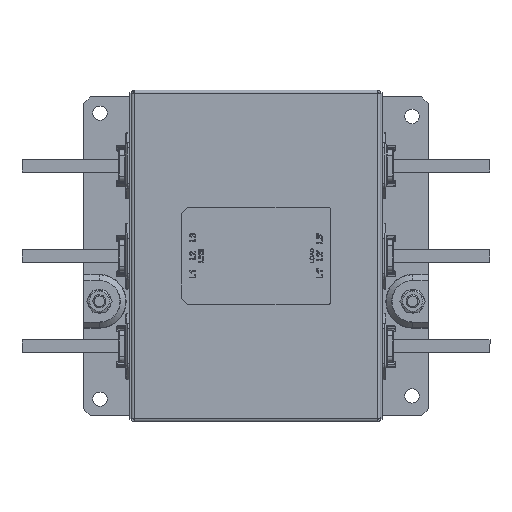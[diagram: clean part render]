
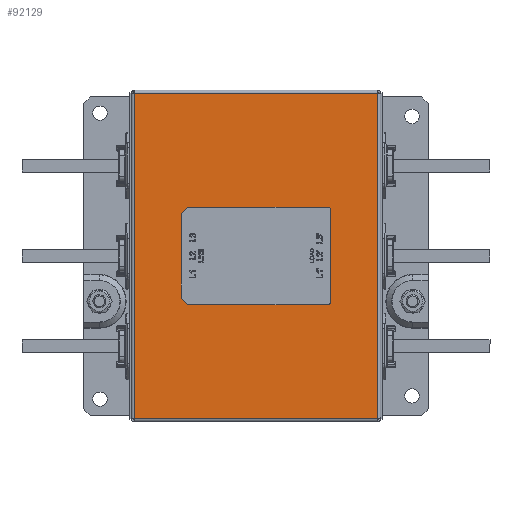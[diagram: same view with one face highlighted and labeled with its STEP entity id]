
A CAD part, top view. The second image highlights one B-rep face of the part: STEP entity #92129.
In plain terms, the highlighted planar face has unit normal (0, 0, 1).
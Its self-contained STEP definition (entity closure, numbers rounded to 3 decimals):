
#18790=CARTESIAN_POINT('',(57.5,35.5,150.));
#18791=VERTEX_POINT('',#18790);
#18798=CARTESIAN_POINT('',(55.5,37.5,150.));
#18799=VERTEX_POINT('',#18798);
#18800=CARTESIAN_POINT('',(55.5,35.5,150.));
#18801=DIRECTION('',(0.,0.,-1.0));
#18802=DIRECTION('',(0.707,0.707,0.));
#18803=AXIS2_PLACEMENT_3D('',#18800,#18801,#18802);
#18804=CIRCLE('',#18803,2.0);
#18805=EDGE_CURVE('',#18799,#18791,#18804,.T.);
#18823=CARTESIAN_POINT('',(57.5,-35.5,150.));
#18824=VERTEX_POINT('',#18823);
#18831=CARTESIAN_POINT('',(57.5,35.5,150.0));
#18832=DIRECTION('',(0.0,-1.0,0.0));
#18833=VECTOR('',#18832,71.0);
#18834=LINE('',#18831,#18833);
#18835=EDGE_CURVE('',#18791,#18824,#18834,.T.);
#18858=CARTESIAN_POINT('',(55.5,-37.5,150.));
#18859=VERTEX_POINT('',#18858);
#18866=CARTESIAN_POINT('',(55.5,-35.5,150.));
#18867=DIRECTION('',(0.,0.,-1.0));
#18868=DIRECTION('',(0.707,-0.707,0.));
#18869=AXIS2_PLACEMENT_3D('',#18866,#18867,#18868);
#18870=CIRCLE('',#18869,2.0);
#18871=EDGE_CURVE('',#18824,#18859,#18870,.T.);
#18884=CARTESIAN_POINT('',(-52.5,-37.5,150.));
#18885=VERTEX_POINT('',#18884);
#18892=CARTESIAN_POINT('',(55.5,-37.5,150.));
#18893=DIRECTION('',(-1.0,0.0,0.0));
#18894=VECTOR('',#18893,108.);
#18895=LINE('',#18892,#18894);
#18896=EDGE_CURVE('',#18859,#18885,#18895,.T.);
#18907=CARTESIAN_POINT('',(-52.5,37.5,150.));
#18908=VERTEX_POINT('',#18907);
#18915=CARTESIAN_POINT('',(-57.5,32.5,150.));
#18916=VERTEX_POINT('',#18915);
#18917=CARTESIAN_POINT('',(-57.5,32.5,150.));
#18918=DIRECTION('',(0.707,0.707,0.));
#18919=VECTOR('',#18918,7.071);
#18920=LINE('',#18917,#18919);
#18921=EDGE_CURVE('',#18916,#18908,#18920,.T.);
#18938=CARTESIAN_POINT('',(-52.5,37.5,150.));
#18939=DIRECTION('',(1.0,0.0,0.0));
#18940=VECTOR('',#18939,108.0);
#18941=LINE('',#18938,#18940);
#18942=EDGE_CURVE('',#18908,#18799,#18941,.T.);
#18955=CARTESIAN_POINT('',(-57.5,-32.5,150.));
#18956=VERTEX_POINT('',#18955);
#18963=CARTESIAN_POINT('',(-52.5,-37.5,150.));
#18964=DIRECTION('',(-0.707,0.707,0.0));
#18965=VECTOR('',#18964,7.071);
#18966=LINE('',#18963,#18965);
#18967=EDGE_CURVE('',#18885,#18956,#18966,.T.);
#18979=CARTESIAN_POINT('',(-57.5,-32.5,150.));
#18980=DIRECTION('',(0.0,1.0,0.0));
#18981=VECTOR('',#18980,65.0);
#18982=LINE('',#18979,#18981);
#18983=EDGE_CURVE('',#18956,#18916,#18982,.T.);
#92080=CARTESIAN_POINT('',(-93.695,-107.505,150.));
#92081=DIRECTION('',(0.0,0.0,1.0));
#92082=DIRECTION('',(0.0,1.0,0.0));
#92083=AXIS2_PLACEMENT_3D('',#92080,#92081,#92082);
#92084=PLANE('',#92083);
#92085=CARTESIAN_POINT('',(-93.7,-125.2,150.));
#92086=VERTEX_POINT('',#92085);
#92087=CARTESIAN_POINT('',(-93.7,125.2,150.));
#92088=VERTEX_POINT('',#92087);
#92089=CARTESIAN_POINT('',(-93.7,-125.2,150.));
#92090=DIRECTION('',(0.0,1.0,0.0));
#92091=VECTOR('',#92090,250.4);
#92092=LINE('',#92089,#92091);
#92093=EDGE_CURVE('',#92086,#92088,#92092,.T.);
#92094=ORIENTED_EDGE('',*,*,#92093,.F.);
#92095=CARTESIAN_POINT('',(93.7,-125.2,150.));
#92096=VERTEX_POINT('',#92095);
#92097=CARTESIAN_POINT('',(-93.7,-125.2,150.));
#92098=DIRECTION('',(1.0,0.0,0.0));
#92099=VECTOR('',#92098,187.4);
#92100=LINE('',#92097,#92099);
#92101=EDGE_CURVE('',#92086,#92096,#92100,.T.);
#92102=ORIENTED_EDGE('',*,*,#92101,.T.);
#92103=CARTESIAN_POINT('',(93.7,125.2,150.));
#92104=VERTEX_POINT('',#92103);
#92105=CARTESIAN_POINT('',(93.7,-125.2,150.));
#92106=DIRECTION('',(0.0,1.0,0.0));
#92107=VECTOR('',#92106,250.4);
#92108=LINE('',#92105,#92107);
#92109=EDGE_CURVE('',#92096,#92104,#92108,.T.);
#92110=ORIENTED_EDGE('',*,*,#92109,.T.);
#92111=CARTESIAN_POINT('',(93.7,125.2,150.));
#92112=DIRECTION('',(-1.0,0.0,0.0));
#92113=VECTOR('',#92112,187.4);
#92114=LINE('',#92111,#92113);
#92115=EDGE_CURVE('',#92104,#92088,#92114,.T.);
#92116=ORIENTED_EDGE('',*,*,#92115,.T.);
#92117=EDGE_LOOP('',(#92094,#92102,#92110,#92116));
#92118=FACE_OUTER_BOUND('',#92117,.T.);
#92119=ORIENTED_EDGE('',*,*,#18921,.T.);
#92120=ORIENTED_EDGE('',*,*,#18942,.T.);
#92121=ORIENTED_EDGE('',*,*,#18805,.T.);
#92122=ORIENTED_EDGE('',*,*,#18835,.T.);
#92123=ORIENTED_EDGE('',*,*,#18871,.T.);
#92124=ORIENTED_EDGE('',*,*,#18896,.T.);
#92125=ORIENTED_EDGE('',*,*,#18967,.T.);
#92126=ORIENTED_EDGE('',*,*,#18983,.T.);
#92127=EDGE_LOOP('',(#92119,#92120,#92121,#92122,#92123,#92124,#92125,#92126));
#92128=FACE_BOUND('',#92127,.T.);
#92129=ADVANCED_FACE('',(#92118,#92128),#92084,.T.);
